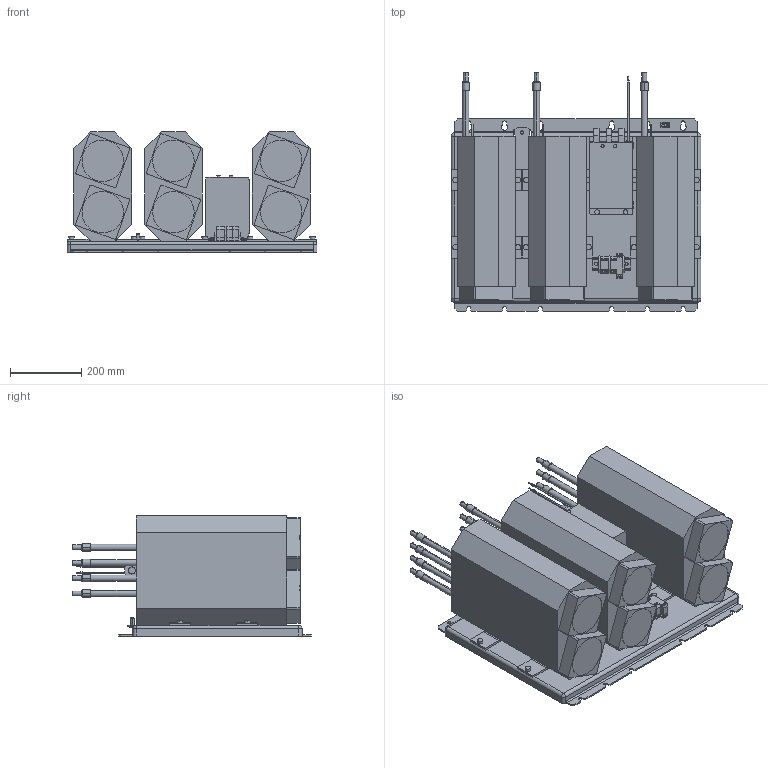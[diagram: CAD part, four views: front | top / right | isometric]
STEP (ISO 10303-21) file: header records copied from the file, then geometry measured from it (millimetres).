
FILE_DESCRIPTION (( 'STEP AP214' ), '1' );
FILE_NAME ('0XZ1I05-1001.STEP', '2023-09-21T11:26:23', ( '' ), ( '' ), 'SwSTEP 2.0', 'SolidWorks 2022', '' );
FILE_SCHEMA (( 'AUTOMOTIVE_DESIGN' ));
Length unit declared in the file: millimetre
Products named in the file (1): 0XZ1I05-1001
Bounding box: 700 x 668.5 x 337 mm (x, y, z)
Volume: 75265035.2 mm3; surface area: 2380784.6 mm2
Topology: 1 solids, 1 shells, 972 faces, 2517 edges, 1640 vertices
Faces by surface type: plane 580, cylinder 345, cone 30, bspline 17
Entity records: 30656 total; most frequent: CARTESIAN_POINT 6079, DIRECTION 5059, ORIENTED_EDGE 5026, EDGE_CURVE 2513, VECTOR 1699, LINE 1699, AXIS2_PLACEMENT_3D 1680, VERTEX_POINT 1640
